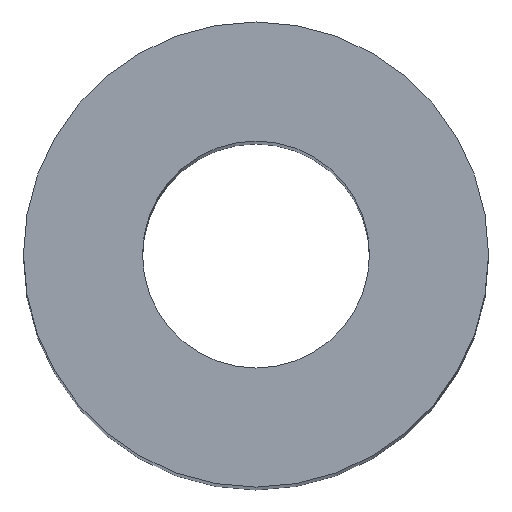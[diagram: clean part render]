
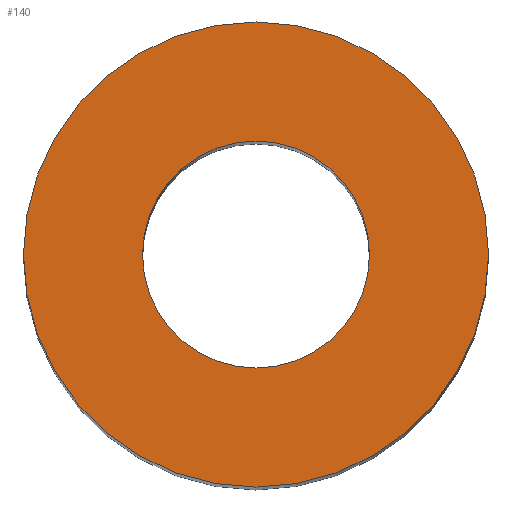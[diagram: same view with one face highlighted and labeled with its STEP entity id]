
A CAD part, top view. The second image highlights one B-rep face of the part: STEP entity #140.
In plain terms, the highlighted planar face has unit normal (0, 0, 1).
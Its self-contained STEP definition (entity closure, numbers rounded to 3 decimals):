
#43 = CYLINDRICAL_SURFACE('',#44,18.85);
#44 = AXIS2_PLACEMENT_3D('',#45,#46,#47);
#45 = CARTESIAN_POINT('',(0.,0.,276.));
#46 = DIRECTION('',(-0.,-0.,-1.));
#47 = DIRECTION('',(1.,0.,0.));
#74 = CYLINDRICAL_SURFACE('',#75,38.635);
#75 = AXIS2_PLACEMENT_3D('',#76,#77,#78);
#76 = CARTESIAN_POINT('',(0.,0.,0.));
#77 = DIRECTION('',(0.,0.,1.));
#78 = DIRECTION('',(1.,0.,-0.));
#91 = VERTEX_POINT('',#92);
#92 = CARTESIAN_POINT('',(38.635,0.,276.));
#113 = EDGE_CURVE('',#91,#91,#114,.T.);
#114 = SURFACE_CURVE('',#115,(#120,#127),.PCURVE_S1.);
#115 = CIRCLE('',#116,38.635);
#116 = AXIS2_PLACEMENT_3D('',#117,#118,#119);
#117 = CARTESIAN_POINT('',(0.,0.,276.));
#118 = DIRECTION('',(0.,0.,1.));
#119 = DIRECTION('',(1.,0.,-0.));
#120 = PCURVE('',#74,#121);
#121 = DEFINITIONAL_REPRESENTATION('',(#122),#126);
#122 = LINE('',#123,#124);
#123 = CARTESIAN_POINT('',(0.,276.));
#124 = VECTOR('',#125,1.);
#125 = DIRECTION('',(1.,0.));
#126 = ( GEOMETRIC_REPRESENTATION_CONTEXT(2) 
PARAMETRIC_REPRESENTATION_CONTEXT() REPRESENTATION_CONTEXT('2D SPACE',''
  ) );
#127 = PCURVE('',#128,#133);
#128 = PLANE('',#129);
#129 = AXIS2_PLACEMENT_3D('',#130,#131,#132);
#130 = CARTESIAN_POINT('',(0.,0.,276.));
#131 = DIRECTION('',(0.,0.,1.));
#132 = DIRECTION('',(1.,0.,-0.));
#133 = DEFINITIONAL_REPRESENTATION('',(#134),#138);
#134 = CIRCLE('',#135,38.635);
#135 = AXIS2_PLACEMENT_2D('',#136,#137);
#136 = CARTESIAN_POINT('',(0.,0.));
#137 = DIRECTION('',(1.,0.));
#138 = ( GEOMETRIC_REPRESENTATION_CONTEXT(2) 
PARAMETRIC_REPRESENTATION_CONTEXT() REPRESENTATION_CONTEXT('2D SPACE',''
  ) );
#140 = ADVANCED_FACE('',(#141,#144),#128,.T.);
#141 = FACE_BOUND('',#142,.T.);
#142 = EDGE_LOOP('',(#143));
#143 = ORIENTED_EDGE('',*,*,#113,.T.);
#144 = FACE_BOUND('',#145,.T.);
#145 = EDGE_LOOP('',(#146));
#146 = ORIENTED_EDGE('',*,*,#147,.F.);
#147 = EDGE_CURVE('',#148,#148,#150,.T.);
#148 = VERTEX_POINT('',#149);
#149 = CARTESIAN_POINT('',(18.85,0.,276.));
#150 = SURFACE_CURVE('',#151,(#156,#163),.PCURVE_S1.);
#151 = CIRCLE('',#152,18.85);
#152 = AXIS2_PLACEMENT_3D('',#153,#154,#155);
#153 = CARTESIAN_POINT('',(0.,0.,276.));
#154 = DIRECTION('',(0.,0.,1.));
#155 = DIRECTION('',(1.,0.,-0.));
#156 = PCURVE('',#128,#157);
#157 = DEFINITIONAL_REPRESENTATION('',(#158),#162);
#158 = CIRCLE('',#159,18.85);
#159 = AXIS2_PLACEMENT_2D('',#160,#161);
#160 = CARTESIAN_POINT('',(0.,0.));
#161 = DIRECTION('',(1.,0.));
#162 = ( GEOMETRIC_REPRESENTATION_CONTEXT(2) 
PARAMETRIC_REPRESENTATION_CONTEXT() REPRESENTATION_CONTEXT('2D SPACE',''
  ) );
#163 = PCURVE('',#43,#164);
#164 = DEFINITIONAL_REPRESENTATION('',(#165),#169);
#165 = LINE('',#166,#167);
#166 = CARTESIAN_POINT('',(-0.,0.));
#167 = VECTOR('',#168,1.);
#168 = DIRECTION('',(-1.,0.));
#169 = ( GEOMETRIC_REPRESENTATION_CONTEXT(2) 
PARAMETRIC_REPRESENTATION_CONTEXT() REPRESENTATION_CONTEXT('2D SPACE',''
  ) );
